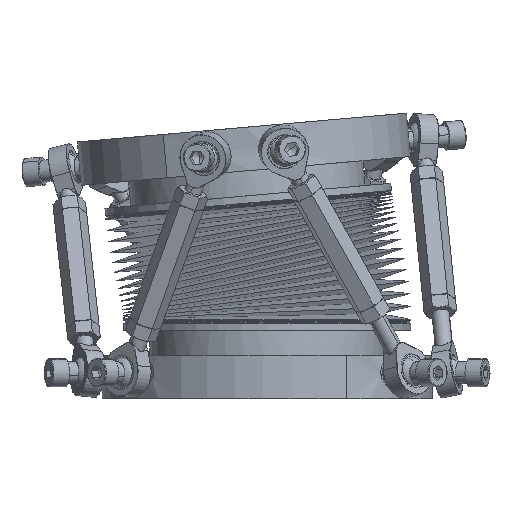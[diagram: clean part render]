
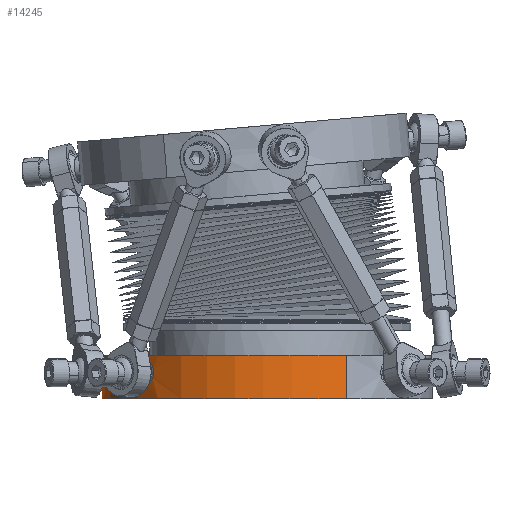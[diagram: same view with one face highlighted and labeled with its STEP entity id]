
A CAD part, left-side view. The second image highlights one B-rep face of the part: STEP entity #14245.
In plain terms, the highlighted cylindrical face has radius 76 mm (diameter 152 mm), a partial arc.
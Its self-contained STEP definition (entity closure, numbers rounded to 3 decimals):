
#12473=AXIS2_PLACEMENT_3D('Circle Axis2P3D',#12471,#12472,$) ;
#13696=AXIS2_PLACEMENT_3D('Circle Axis2P3D',#13694,#13695,$) ;
#13917=AXIS2_PLACEMENT_3D('Cylinder Axis2P3D',#13914,#13915,#13916) ;
#12466=CARTESIAN_POINT('Vertex',(-66.696,-36.436,20.)) ;
#12468=CARTESIAN_POINT('Vertex',(66.696,36.436,20.)) ;
#12471=CARTESIAN_POINT('Axis2P3D Location',(0.,0.,20.)) ;
#13694=CARTESIAN_POINT('Axis2P3D Location',(0.,0.,0.)) ;
#13698=CARTESIAN_POINT('Vertex',(66.696,36.436,0.)) ;
#13700=CARTESIAN_POINT('Vertex',(-66.696,-36.436,0.)) ;
#13914=CARTESIAN_POINT('Axis2P3D Location',(0.,0.,10.)) ;
#13919=CARTESIAN_POINT('Line Origine',(-66.696,-36.436,10.)) ;
#13924=CARTESIAN_POINT('Line Origine',(66.696,36.436,10.)) ;
#14162=CARTESIAN_POINT('Control Point',(-52.955,54.514,17.265)) ;
#14163=CARTESIAN_POINT('Control Point',(-53.36,54.12,16.957)) ;
#14164=CARTESIAN_POINT('Control Point',(-53.732,53.752,16.574)) ;
#14165=CARTESIAN_POINT('Control Point',(-54.062,53.419,16.122)) ;
#14166=CARTESIAN_POINT('Control Point',(-54.905,52.557,14.598)) ;
#14167=CARTESIAN_POINT('Control Point',(-55.274,52.16,12.678)) ;
#14168=CARTESIAN_POINT('Control Point',(-55.275,52.16,11.329)) ;
#14169=CARTESIAN_POINT('Control Point',(-54.907,52.555,9.409)) ;
#14170=CARTESIAN_POINT('Control Point',(-54.065,53.416,7.883)) ;
#14171=CARTESIAN_POINT('Control Point',(-53.736,53.748,7.431)) ;
#14172=CARTESIAN_POINT('Control Point',(-52.67,54.804,6.329)) ;
#14173=CARTESIAN_POINT('Control Point',(-51.331,56.066,5.847)) ;
#14174=CARTESIAN_POINT('Control Point',(-50.398,56.906,5.846)) ;
#14175=CARTESIAN_POINT('Control Point',(-49.49,57.688,6.159)) ;
#14176=CARTESIAN_POINT('Control Point',(-48.68,58.363,6.735)) ;
#14177=CARTESIAN_POINT('Vertex',(-52.955,54.514,17.265)) ;
#14179=CARTESIAN_POINT('Vertex',(-48.68,58.363,6.735)) ;
#14183=CARTESIAN_POINT('Control Point',(-48.68,58.363,6.735)) ;
#14184=CARTESIAN_POINT('Control Point',(-48.246,58.725,7.043)) ;
#14185=CARTESIAN_POINT('Control Point',(-47.841,59.056,7.426)) ;
#14186=CARTESIAN_POINT('Control Point',(-47.475,59.349,7.878)) ;
#14187=CARTESIAN_POINT('Control Point',(-46.53,60.098,9.402)) ;
#14188=CARTESIAN_POINT('Control Point',(-46.097,60.424,11.322)) ;
#14189=CARTESIAN_POINT('Control Point',(-46.096,60.424,12.671)) ;
#14190=CARTESIAN_POINT('Control Point',(-46.527,60.1,14.591)) ;
#14191=CARTESIAN_POINT('Control Point',(-47.472,59.352,16.117)) ;
#14192=CARTESIAN_POINT('Control Point',(-47.837,59.059,16.569)) ;
#14193=CARTESIAN_POINT('Control Point',(-48.998,58.11,17.671)) ;
#14194=CARTESIAN_POINT('Control Point',(-50.393,56.911,18.153)) ;
#14195=CARTESIAN_POINT('Control Point',(-51.326,56.071,18.154)) ;
#14196=CARTESIAN_POINT('Control Point',(-52.199,55.249,17.841)) ;
#14197=CARTESIAN_POINT('Control Point',(-52.955,54.514,17.265)) ;
#14204=CARTESIAN_POINT('Control Point',(-26.204,71.34,17.265)) ;
#14205=CARTESIAN_POINT('Control Point',(-26.734,71.145,16.957)) ;
#14206=CARTESIAN_POINT('Control Point',(-27.224,70.96,16.574)) ;
#14207=CARTESIAN_POINT('Control Point',(-27.66,70.79,16.122)) ;
#14208=CARTESIAN_POINT('Control Point',(-28.781,70.345,14.598)) ;
#14209=CARTESIAN_POINT('Control Point',(-29.28,70.133,12.678)) ;
#14210=CARTESIAN_POINT('Control Point',(-29.281,70.133,11.329)) ;
#14211=CARTESIAN_POINT('Control Point',(-28.784,70.344,9.409)) ;
#14212=CARTESIAN_POINT('Control Point',(-27.665,70.788,7.883)) ;
#14213=CARTESIAN_POINT('Control Point',(-27.229,70.958,7.431)) ;
#14214=CARTESIAN_POINT('Control Point',(-25.826,71.489,6.329)) ;
#14215=CARTESIAN_POINT('Control Point',(-24.09,72.097,5.847)) ;
#14216=CARTESIAN_POINT('Control Point',(-22.896,72.485,5.846)) ;
#14217=CARTESIAN_POINT('Control Point',(-21.747,72.83,6.159)) ;
#14218=CARTESIAN_POINT('Control Point',(-20.733,73.117,6.735)) ;
#14219=CARTESIAN_POINT('Vertex',(-26.204,71.34,17.265)) ;
#14221=CARTESIAN_POINT('Vertex',(-20.733,73.117,6.735)) ;
#14225=CARTESIAN_POINT('Control Point',(-20.733,73.117,6.735)) ;
#14226=CARTESIAN_POINT('Control Point',(-20.19,73.271,7.043)) ;
#14227=CARTESIAN_POINT('Control Point',(-19.685,73.409,7.426)) ;
#14228=CARTESIAN_POINT('Control Point',(-19.231,73.528,7.878)) ;
#14229=CARTESIAN_POINT('Control Point',(-18.063,73.827,9.402)) ;
#14230=CARTESIAN_POINT('Control Point',(-17.535,73.949,11.322)) ;
#14231=CARTESIAN_POINT('Control Point',(-17.534,73.949,12.671)) ;
#14232=CARTESIAN_POINT('Control Point',(-18.06,73.828,14.591)) ;
#14233=CARTESIAN_POINT('Control Point',(-19.227,73.53,16.117)) ;
#14234=CARTESIAN_POINT('Control Point',(-19.68,73.411,16.569)) ;
#14235=CARTESIAN_POINT('Control Point',(-21.127,73.016,17.671)) ;
#14236=CARTESIAN_POINT('Control Point',(-22.889,72.487,18.153)) ;
#14237=CARTESIAN_POINT('Control Point',(-24.083,72.099,18.154)) ;
#14238=CARTESIAN_POINT('Control Point',(-25.214,71.703,17.841)) ;
#14239=CARTESIAN_POINT('Control Point',(-26.204,71.34,17.265)) ;
#12472=DIRECTION('Axis2P3D Direction',(0.,0.,1.)) ;
#13695=DIRECTION('Axis2P3D Direction',(0.,0.,1.)) ;
#13915=DIRECTION('Axis2P3D Direction',(0.,0.,1.)) ;
#13916=DIRECTION('Axis2P3D XDirection',(0.878,0.479,0.)) ;
#13920=DIRECTION('Vector Direction',(0.,0.,1.)) ;
#13925=DIRECTION('Vector Direction',(0.,0.,1.)) ;
#13921=VECTOR('Line Direction',#13920,1.) ;
#13926=VECTOR('Line Direction',#13925,1.) ;
#14156=ORIENTED_EDGE('',*,*,#12475,.F.) ;
#14157=ORIENTED_EDGE('',*,*,#13928,.T.) ;
#14158=ORIENTED_EDGE('',*,*,#13702,.T.) ;
#14159=ORIENTED_EDGE('',*,*,#13923,.F.) ;
#14200=ORIENTED_EDGE('',*,*,#14181,.T.) ;
#14201=ORIENTED_EDGE('',*,*,#14198,.T.) ;
#14242=ORIENTED_EDGE('',*,*,#14223,.T.) ;
#14243=ORIENTED_EDGE('',*,*,#14240,.T.) ;
#14202=FACE_BOUND('',#14199,.T.) ;
#14244=FACE_BOUND('',#14241,.T.) ;
#14245=ADVANCED_FACE('PA100HEXBU_64723.1\\PA100HEXBU_BU.1',(#14160,#14202,#14244),#13918,.T.) ;
#14161=B_SPLINE_CURVE_WITH_KNOTS('',5,(#14162,#14163,#14164,#14165,#14166,#14167,#14168,#14169,#14170,#14171,#14172,#14173,#14174,#14175,#14176),.UNSPECIFIED.,.F.,.U.,(6,3,3,3,6),(0.,4.548,13.623,18.17,26.667),.UNSPECIFIED.) ;
#14182=B_SPLINE_CURVE_WITH_KNOTS('',5,(#14183,#14184,#14185,#14186,#14187,#14188,#14189,#14190,#14191,#14192,#14193,#14194,#14195,#14196,#14197),.UNSPECIFIED.,.F.,.U.,(6,3,3,3,6),(0.,4.548,13.623,18.17,26.667),.UNSPECIFIED.) ;
#14203=B_SPLINE_CURVE_WITH_KNOTS('',5,(#14204,#14205,#14206,#14207,#14208,#14209,#14210,#14211,#14212,#14213,#14214,#14215,#14216,#14217,#14218),.UNSPECIFIED.,.F.,.U.,(6,3,3,3,6),(0.,4.548,13.623,18.17,26.667),.UNSPECIFIED.) ;
#14224=B_SPLINE_CURVE_WITH_KNOTS('',5,(#14225,#14226,#14227,#14228,#14229,#14230,#14231,#14232,#14233,#14234,#14235,#14236,#14237,#14238,#14239),.UNSPECIFIED.,.F.,.U.,(6,3,3,3,6),(0.,4.548,13.623,18.17,26.667),.UNSPECIFIED.) ;
#12474=CIRCLE('generated circle',#12473,76.) ;
#13697=CIRCLE('generated circle',#13696,76.) ;
#13918=CYLINDRICAL_SURFACE('generated cylinder',#13917,76.) ;
#12475=EDGE_CURVE('',#12469,#12467,#12474,.T.) ;
#13702=EDGE_CURVE('',#13699,#13701,#13697,.T.) ;
#13923=EDGE_CURVE('',#12467,#13701,#13922,.F.) ;
#13928=EDGE_CURVE('',#12469,#13699,#13927,.F.) ;
#14181=EDGE_CURVE('',#14178,#14180,#14161,.T.) ;
#14198=EDGE_CURVE('',#14180,#14178,#14182,.T.) ;
#14223=EDGE_CURVE('',#14220,#14222,#14203,.T.) ;
#14240=EDGE_CURVE('',#14222,#14220,#14224,.T.) ;
#14155=EDGE_LOOP('',(#14156,#14157,#14158,#14159)) ;
#14199=EDGE_LOOP('',(#14200,#14201)) ;
#14241=EDGE_LOOP('',(#14242,#14243)) ;
#14160=FACE_OUTER_BOUND('',#14155,.T.) ;
#13922=LINE('Line',#13919,#13921) ;
#13927=LINE('Line',#13924,#13926) ;
#12467=VERTEX_POINT('',#12466) ;
#12469=VERTEX_POINT('',#12468) ;
#13699=VERTEX_POINT('',#13698) ;
#13701=VERTEX_POINT('',#13700) ;
#14178=VERTEX_POINT('',#14177) ;
#14180=VERTEX_POINT('',#14179) ;
#14220=VERTEX_POINT('',#14219) ;
#14222=VERTEX_POINT('',#14221) ;
